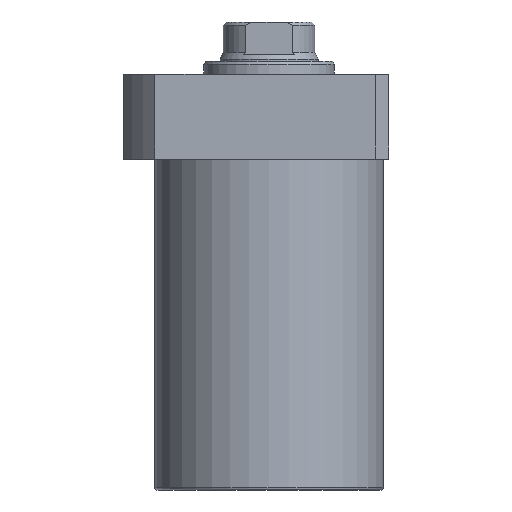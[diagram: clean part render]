
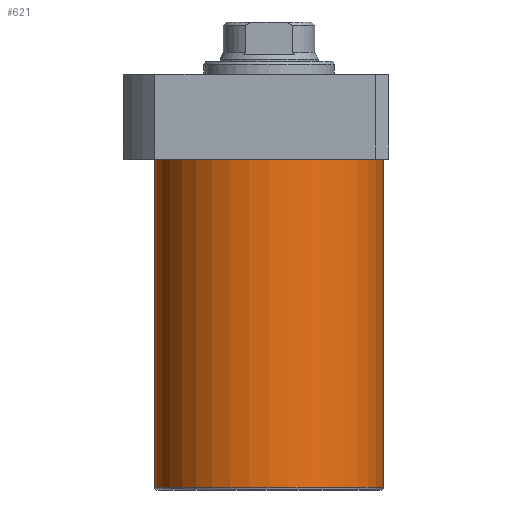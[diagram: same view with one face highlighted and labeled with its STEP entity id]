
A CAD part, front view. The second image highlights one B-rep face of the part: STEP entity #621.
In plain terms, the highlighted cylindrical face has radius 52.5 mm (diameter 105 mm), a partial arc.
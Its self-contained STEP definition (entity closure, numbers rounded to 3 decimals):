
#23 = DIRECTION ( 'NONE',  ( 0., 0., 1. ) ) ;
#113 = EDGE_CURVE ( 'NONE', #546, #1675, #1212, .T. ) ;
#171 = CARTESIAN_POINT ( 'NONE',  ( 0., 0., -170.5 ) ) ;
#191 = EDGE_LOOP ( 'NONE', ( #1426, #1225, #688, #522 ) ) ;
#267 = CARTESIAN_POINT ( 'NONE',  ( -52.5, 0., -19.5 ) ) ;
#339 = DIRECTION ( 'NONE',  ( 0., 0., 1. ) ) ;
#480 = DIRECTION ( 'NONE',  ( -1., 0., 0. ) ) ;
#522 = ORIENTED_EDGE ( 'NONE', *, *, #113, .T. ) ;
#546 = VERTEX_POINT ( 'NONE', #821 ) ;
#553 = CARTESIAN_POINT ( 'NONE',  ( 0., 0., -171.5 ) ) ;
#561 = LINE ( 'NONE', #900, #923 ) ;
#621 = ADVANCED_FACE ( 'NONE', ( #1873 ), #1487, .T. ) ;
#655 = VERTEX_POINT ( 'NONE', #1625 ) ;
#658 = CIRCLE ( 'NONE', #1166, 52.5 ) ;
#688 = ORIENTED_EDGE ( 'NONE', *, *, #1783, .T. ) ;
#735 = VECTOR ( 'NONE', #1371, 1000. ) ;
#821 = CARTESIAN_POINT ( 'NONE',  ( 52.5, 0., -19.5 ) ) ;
#900 = CARTESIAN_POINT ( 'NONE',  ( 52.5, 0., -171.5 ) ) ;
#923 = VECTOR ( 'NONE', #23, 1000. ) ;
#981 = LINE ( 'NONE', #1968, #735 ) ;
#993 = CARTESIAN_POINT ( 'NONE',  ( 52.5, 0., -170.5 ) ) ;
#1074 = CARTESIAN_POINT ( 'NONE',  ( 0., 0., -19.5 ) ) ;
#1166 = AXIS2_PLACEMENT_3D ( 'NONE', #171, #339, #480 ) ;
#1209 = DIRECTION ( 'NONE',  ( 1., 0., 0. ) ) ;
#1212 = CIRCLE ( 'NONE', #1524, 52.5 ) ;
#1225 = ORIENTED_EDGE ( 'NONE', *, *, #1806, .T. ) ;
#1324 = DIRECTION ( 'NONE',  ( 0., 0., 1. ) ) ;
#1371 = DIRECTION ( 'NONE',  ( 0., 0., 1. ) ) ;
#1426 = ORIENTED_EDGE ( 'NONE', *, *, #1747, .F. ) ;
#1487 = CYLINDRICAL_SURFACE ( 'NONE', #1820, 52.5 ) ;
#1524 = AXIS2_PLACEMENT_3D ( 'NONE', #1074, #1960, #1209 ) ;
#1625 = CARTESIAN_POINT ( 'NONE',  ( -52.5, 0., -170.5 ) ) ;
#1675 = VERTEX_POINT ( 'NONE', #267 ) ;
#1747 = EDGE_CURVE ( 'NONE', #655, #1675, #981, .T. ) ;
#1763 = DIRECTION ( 'NONE',  ( 1., 0., 0. ) ) ;
#1783 = EDGE_CURVE ( 'NONE', #1966, #546, #561, .T. ) ;
#1806 = EDGE_CURVE ( 'NONE', #655, #1966, #658, .T. ) ;
#1820 = AXIS2_PLACEMENT_3D ( 'NONE', #553, #1324, #1763 ) ;
#1873 = FACE_OUTER_BOUND ( 'NONE', #191, .T. ) ;
#1960 = DIRECTION ( 'NONE',  ( 0., 0., -1. ) ) ;
#1966 = VERTEX_POINT ( 'NONE', #993 ) ;
#1968 = CARTESIAN_POINT ( 'NONE',  ( -52.5, 0., -171.5 ) ) ;
